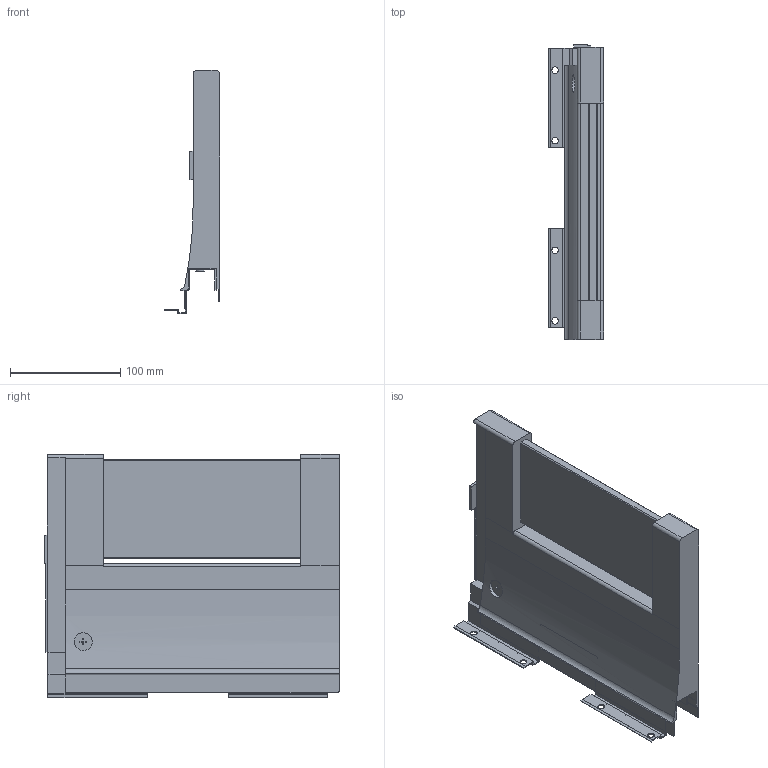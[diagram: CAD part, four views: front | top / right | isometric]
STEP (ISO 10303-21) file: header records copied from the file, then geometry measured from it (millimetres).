
FILE_DESCRIPTION (( 'STEP AP214' ), '1' );
FILE_NAME ('_XP Agantis Dekorseite H127 NL275 RE Top Glashalter.step', '2010-07-08T06:29:18', ( 'grass' ), ( '' ), 'SwSTEP 2.0', 'SolidWorks 2010', '' );
FILE_SCHEMA (( 'AUTOMOTIVE_DESIGN' ));
Length unit declared in the file: millimetre
Products named in the file (1): _XP Agantis Dekorseite H127 NL275 RE Top Glashalter
Bounding box: 50.11 x 267.6 x 220.7 mm (x, y, z)
Volume: 906410.4 mm3; surface area: 172200.2 mm2
Topology: 1 solids, 1 shells, 150 faces, 434 edges, 285 vertices
Faces by surface type: plane 121, cylinder 29
Entity records: 5017 total; most frequent: CARTESIAN_POINT 957, ORIENTED_EDGE 868, DIRECTION 792, EDGE_CURVE 434, LINE 374, VECTOR 374, VERTEX_POINT 285, AXIS2_PLACEMENT_3D 209
